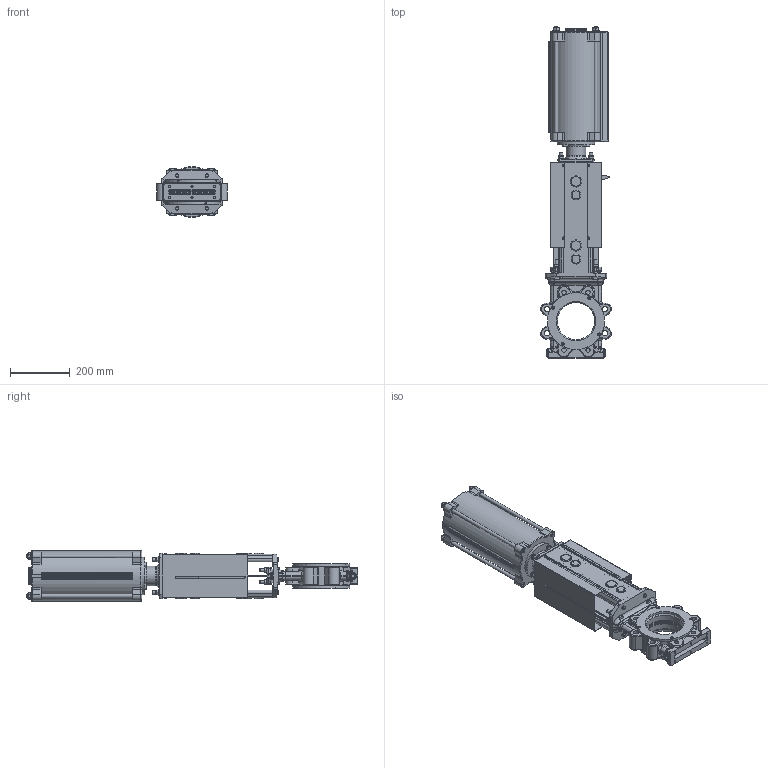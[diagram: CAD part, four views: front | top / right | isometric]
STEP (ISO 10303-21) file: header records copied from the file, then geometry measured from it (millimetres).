
FILE_DESCRIPTION(/* description */ (''),/* implementation_level */ '2;1');
FILE_NAME(/* name */ 'F:\3D-block färdiga för export\SLV-SLF\DN 125\SLV-DN125-PN10-FRSC160-215 .stp',/* time_stamp */ '2020-12-16T09:57:52+01:00',/* author */ ('MATZET'),/* organization */ (''),/* preprocessor_version */ 'ST-DEVELOPER v18',/* originating_system */ 'Autodesk Inventor 2020',/* authorisation */ '');
FILE_SCHEMA (('AUTOMOTIVE_DESIGN { 1 0 10303 214 3 1 1 }'));
Products named in the file (1): SLV-DN125-PN10-FRSC160-215 
Bounding box: 237.43 x 1113 x 170 mm (x, y, z)
Volume: 6575264.7 mm3; surface area: 1976875.8 mm2
Topology: 1 solids, 1 shells, 2909 faces, 7472 edges, 4628 vertices
Faces by surface type: plane 1026, cylinder 806, bspline 377, cone 317, torus 295, sphere 88
Full cylindrical faces by diameter (mm): 3 x8, 4 x6, 4.134 x4, 4.2 x16, 4.5 x4, 4.917 x4, 6 x10, 6.4 x1, 6.5 x8, 7 x1, 8 x2, 8.376 x2, 8.88 x1, 9.5 x4, 10 x31, 10.5 x4, 11.445 x2, 12 x29, 13 x11, 14.63 x4, 15 x3, 16 x2, 17.7 x1, 18 x8, 18.376 x1, 19 x4, 19.4 x2, 20 x9, 20.5 x1, 23 x4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
Entity records: 139710 total; most frequent: CARTESIAN_POINT 67680, DIRECTION 14779, ORIENTED_EDGE 14770, EDGE_CURVE 7385, AXIS2_PLACEMENT_3D 6148, VERTEX_POINT 4628, CIRCLE 3296, EDGE_LOOP 3209
